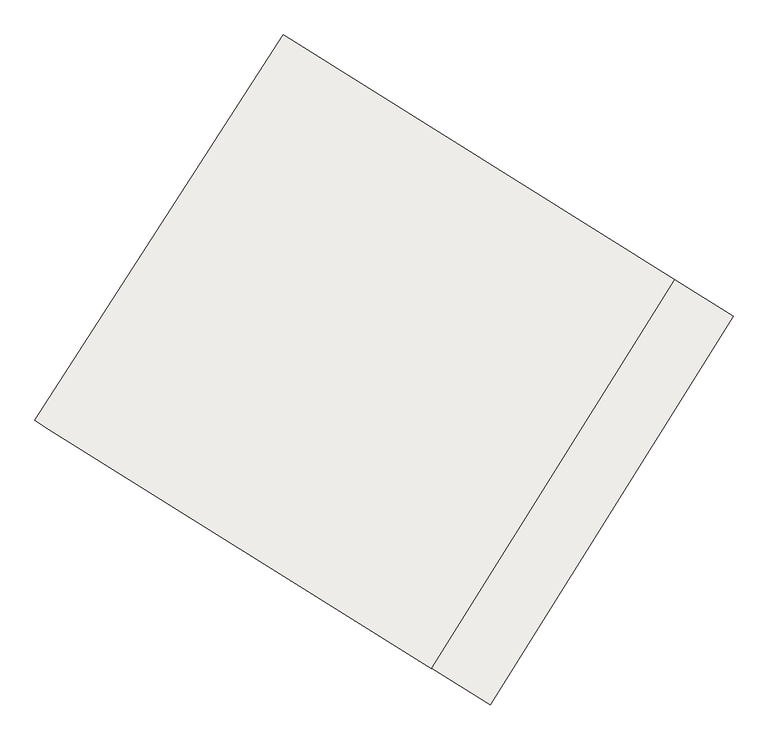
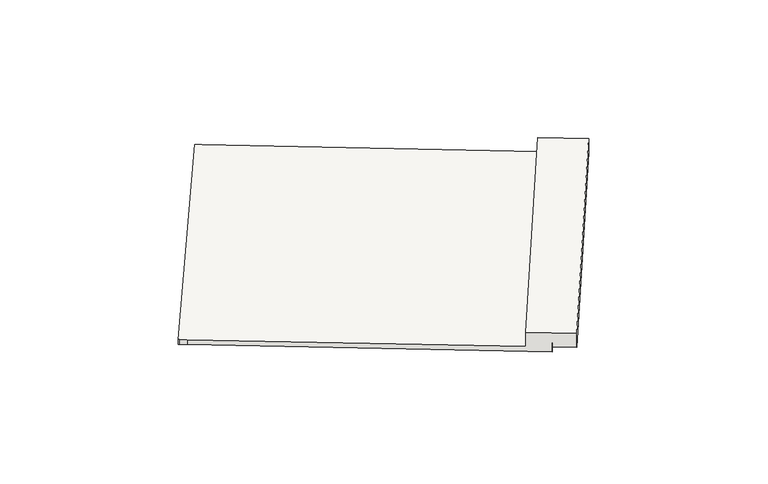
"""IFC4 building model written with IfcOpenShell, lengths in millimetres: slab geometry, Non-Monolitic_Landing."""

from ifc_helpers import new_model, si_unit, origin, place, context, project, spatial, faceted_brep, source, transform, mapped, element, save


def slab_75dce6ce(model_context):
    return source(origin(), model_context, "Body", "Brep", [
        faceted_brep([(16970.8983093, 6136.2220931, 650.0), (16970.8983093, 6136.2220931, 500.0), (15381.1405166, 3592.0778046, 500.0), (15381.1405166, 3592.0778046, 650.0), (17352.5199525, 5897.7584242, 650.0), (15762.7621598, 3353.6141357, 650.0), (17352.5199525, 5897.7584242, 500.0), (15762.7621598, 3353.6141357, 500.0), (15580.4318192, 3467.5467775, 500.0), (17170.1896119, 6011.691066, 500.0), (14459.9076214, 7705.2632168, 500.0), (14417.8809756, 7732.3512408, 500.0), (14409.4756464, 7737.7688456, 500.0), (12784.1942097, 5216.1700965, 500.0), (12792.5995389, 5210.7524917, 500.0), (12852.3089561, 5172.2671428, 500.0), (17170.1896119, 6011.691066, 450.0), (15580.4318192, 3467.5467775, 450.0), (12852.3089561, 5172.2671428, 450.0), (12792.5995389, 5210.7524917, 450.0), (12784.1942097, 5216.1700965, 450.0), (14409.4756464, 7737.7688456, 450.0), (14417.8809756, 7732.3512408, 450.0), (14459.9076214, 7705.2632168, 450.0)], [[[0, 1, 2, 3]], [[4, 0, 3, 5]], [[6, 4, 5, 7]], [[6, 7, 8, 9]], [[10, 11, 12, 13, 14, 15, 2, 1]], [[16, 17, 18, 19, 20, 21, 22, 23]], [[17, 16, 9, 8]], [[16, 23, 10, 1, 0, 4, 6, 9]], [[11, 10, 23, 22]], [[12, 11, 22, 21]], [[13, 12, 21, 20]], [[14, 13, 20, 19]], [[15, 14, 19, 18]], [[18, 17, 8, 7, 5, 3, 2, 15]]]),
    ])


if __name__ == "__main__":
    model = new_model("IFC4")
    model_context = context("Model", 3, world=origin())
    ifc_project = project(units=[si_unit("LENGTHUNIT", "METRE", prefix="MILLI")], contexts=[model_context])
    site = spatial("IfcSite", under=ifc_project)
    building = spatial("IfcBuilding", under=site)
    placement = place(None, origin())
    slab_shape = slab_75dce6ce(model_context)
    element("IfcSlab", 1, ObjectType="Non-Monolitic_Landing", at=placement, inside=building, context=model_context, shape_type="MappedRepresentation", body=[
        mapped(slab_shape, transform((0.0, 0.0, 0.0), x_axis=(1.0, 0.0, 0.0), y_axis=(0.0, 1.0, 0.0), z_axis=(0.0, 0.0, 1.0))),
    ])
    save(model, "model.ifc")
